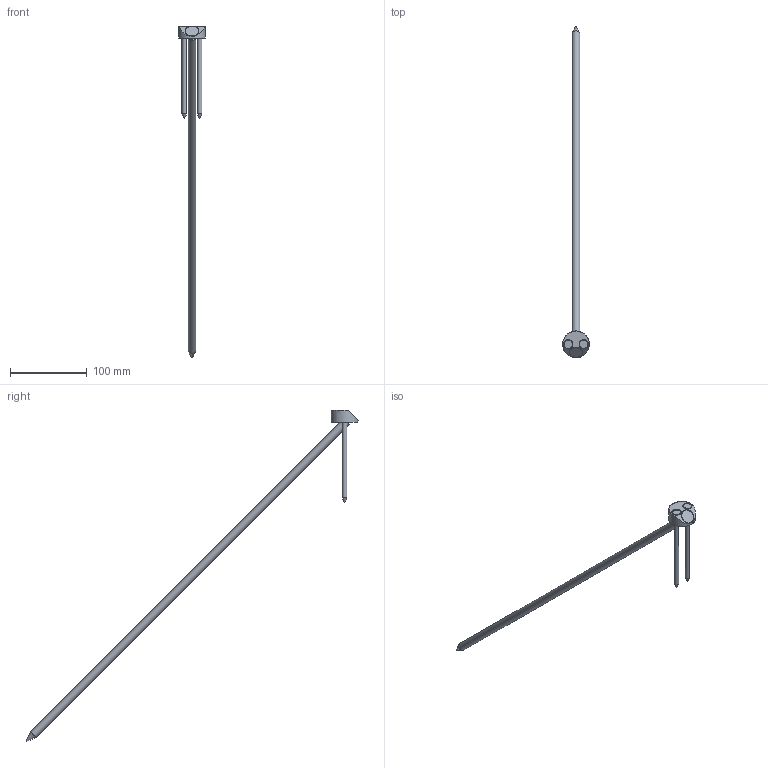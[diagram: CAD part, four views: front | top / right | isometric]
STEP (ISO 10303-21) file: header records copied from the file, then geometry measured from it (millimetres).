
FILE_DESCRIPTION(/* description */ ('Unknown'),/* implementation_level */ '2;1');
FILE_NAME(/* name */ 'T-Joint_D35_W45_SK-10x600_2xSK-6x120',/* time_stamp */ '2020-07-13T10:21:44+02:00',/* author */ ('Unknown'),/* organization */ ('Unknown'),/* preprocessor_version */ 'ST-DEVELOPER v16.7',/* originating_system */ 'DEX',/* authorisation */ $);
FILE_SCHEMA (('AUTOMOTIVE_DESIGN {1 0 10303 214 3 1 1}'));
Length unit declared in the file: millimetre
Products named in the file (4): T-Joint_D35_W45_SK-10x600_2xSK-6x120; T-Joint_D35_W45; SK Schraube 6x120_ohne_Gewinde; SK Schraube 10x600_ohne_Gewinde_22042020
Assembly tree (4 placements, depth 2):
  T-Joint_D35_W45_SK-10x600_2xSK-6x120
    T-Joint_D35_W45
    SK Schraube 6x120_ohne_Gewinde  x2
    SK Schraube 10x600_ohne_Gewinde_22042020
Bounding box: 34.78 x 431.26 x 430.97 mm (x, y, z)
Volume: 64069.6 mm3; surface area: 27862.7 mm2
Topology: 4 solids, 4 shells, 35 faces, 73 edges, 45 vertices
Faces by surface type: cylinder 12, plane 11, cone 9, torus 3
Full cylindrical faces by diameter (mm): 6 x2, 6.2 x2, 6.3 x1, 10 x2, 11 x2, 12.5 x1, 18 x1, 34.8 x1
Entity records: 771 total; most frequent: DIRECTION 130, CARTESIAN_POINT 126, ORIENTED_EDGE 76, AXIS2_PLACEMENT_3D 63, EDGE_LOOP 53, FACE_BOUND 53, EDGE_CURVE 38, VERTEX_POINT 33
